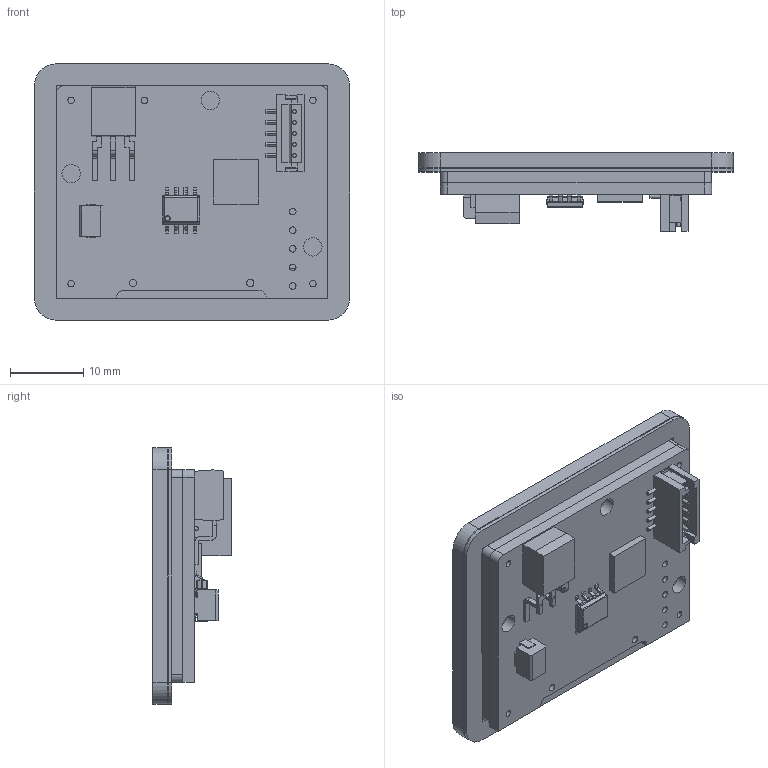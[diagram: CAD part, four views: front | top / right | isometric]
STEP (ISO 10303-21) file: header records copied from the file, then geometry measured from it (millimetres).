
FILE_DESCRIPTION (( 'STEP AP214' ), '1' );
FILE_NAME ('FusionAMP UI 01xx.STEP', '2020-12-07T11:36:24', ( '' ), ( '' ), 'SwSTEP 2.0', 'SolidWorks 2017', '' );
FILE_SCHEMA (( 'AUTOMOTIVE_DESIGN' ));
Length unit declared in the file: millimetre
Products named in the file (6): Tape Two sided MP-DSP Inner; PCB MP-DSP UI OLED B01; FusionAMP UI 01xx; PCB_Frame; Tape Two sided MP-DSP Outer; MP-DSP UI Panel
Assembly tree (5 placements, depth 2):
  FusionAMP UI 01xx
    PCB MP-DSP UI OLED B01
    MP-DSP UI Panel
    Tape Two sided MP-DSP Outer
    PCB_Frame
    Tape Two sided MP-DSP Inner
Bounding box: 43 x 10.7 x 35 mm (x, y, z)
Volume: 6358.1 mm3; surface area: 10700.1 mm2
Topology: 22 solids, 22 shells, 486 faces, 1241 edges, 796 vertices
Faces by surface type: plane 309, cylinder 156, bspline 21
Entity records: 19929 total; most frequent: CARTESIAN_POINT 2955, DIRECTION 2468, ORIENTED_EDGE 2446, EDGE_CURVE 1223, VECTOR 908, LINE 908, VERTEX_POINT 791, AXIS2_PLACEMENT_3D 780
